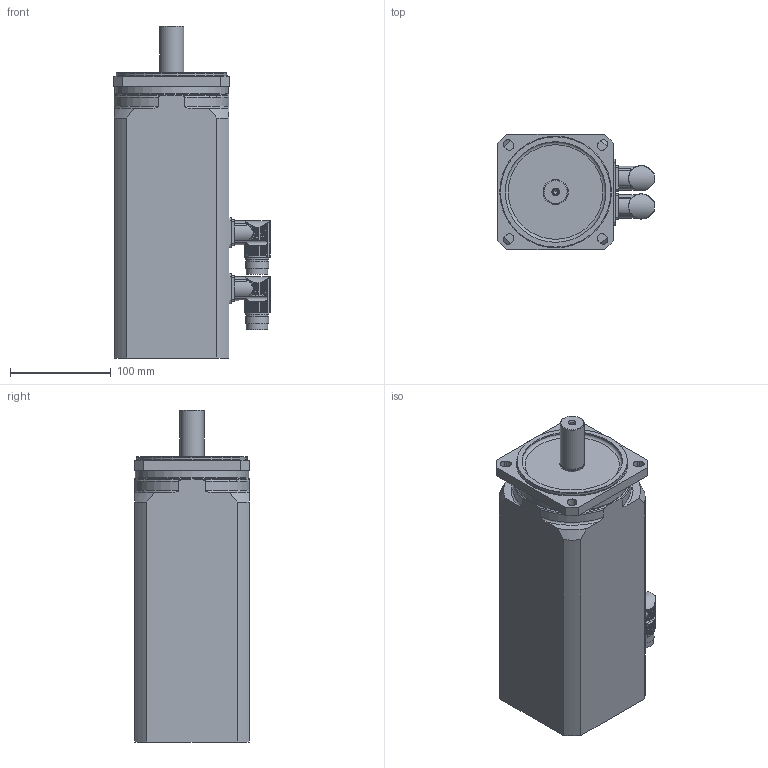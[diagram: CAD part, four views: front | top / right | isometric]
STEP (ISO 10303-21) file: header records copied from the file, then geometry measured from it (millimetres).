
FILE_DESCRIPTION(/* description */ (''),/* implementation_level */ '2;1');
FILE_NAME(/* name */ 'MR 7444-Ux-Nxxx-G##-A0D-MS',/* time_stamp */ '2007-07-13T09:50:00+01:00',/* author */ (''),/* organization */ ('ESR Pollmeier GmbH'),/* preprocessor_version */ 'ST-DEVELOPER v8',/* originating_system */ 'UNIGRAPHICS SOLUTIONS - UNIGRAPHICS 18.0',/* authorisation */ '');
FILE_SCHEMA (('AUTOMOTIVE_DESIGN { 1 2 10303 214 0 1 1 1 }'));
Length unit declared in the file: millimetre
Products named in the file (3): Winkelflanschdose_0; Rotor_SY4_0; MR7444-Ux-Nxxx-G##-A0D-MS_0
Assembly tree (3 placements, depth 2):
  MR7444-Ux-Nxxx-G##-A0D-MS_0
    Rotor_SY4_0
    Winkelflanschdose_0  x2
Bounding box: 155.49 x 115 x 330 mm (x, y, z)
Volume: 3613328.3 mm3; surface area: 173422.5 mm2
Topology: 4 solids, 4 shells, 427 faces, 1192 edges, 791 vertices
Faces by surface type: cylinder 320, plane 82, torus 15, cone 10
Full cylindrical faces by diameter (mm): 4.351 x1, 5.5 x1, 16 x2, 21 x2, 21.5 x2, 23 x4, 23.52 x1, 24 x1, 25 x1, 100 x1, 110 x1, 113 x1
Entity records: 8893 total; most frequent: CARTESIAN_POINT 2301, ORIENTED_EDGE 1382, DIRECTION 1304, EDGE_CURVE 691, AXIS2_PLACEMENT_3D 514, VERTEX_POINT 473, EDGE_LOOP 309, LINE 276
